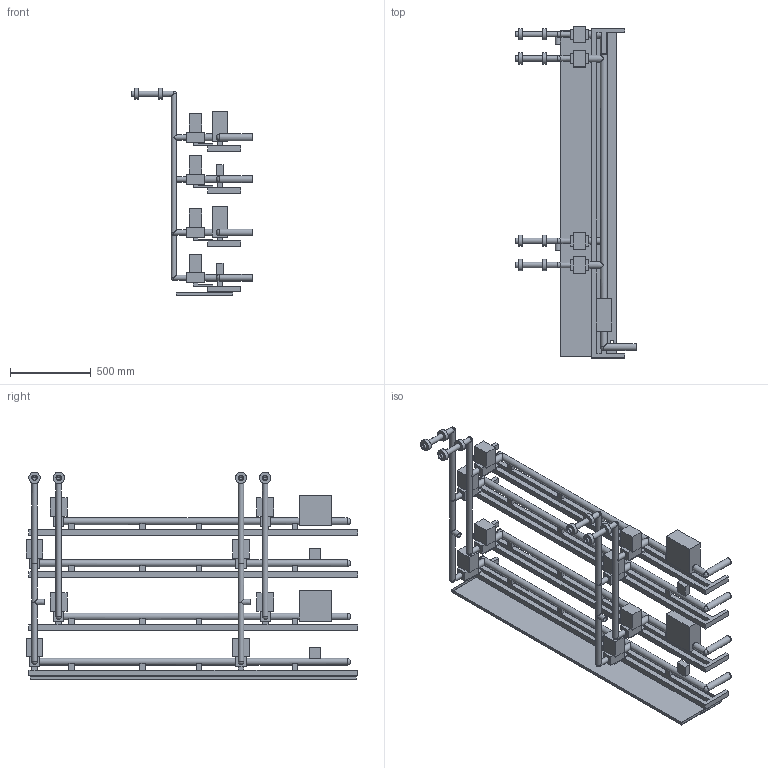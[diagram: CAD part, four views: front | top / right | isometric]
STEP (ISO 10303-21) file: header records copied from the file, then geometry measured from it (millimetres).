
FILE_DESCRIPTION(('Open CASCADE Model'),'2;1');
FILE_NAME('Open CASCADE Shape Model','2026-11-05T12:47:00',('Author'),( 'Open CASCADE'),'Open CASCADE STEP processor 7.9','Open CASCADE 7.9' ,'Unknown');
FILE_SCHEMA(('AUTOMOTIVE_DESIGN { 1 0 10303 214 1 1 1 1 }'));
Length unit declared in the file: millimetre
Products named in the file (44): C06_WATER_FIT; A_W1_DETACHABLE_SPOOL; A_W1_UNION_632; A_W1_UNION_780; A_W1_BED_TREE; A_XV_CS; A_XV_HS; A_W2_DETACHABLE_SPOOL; A_W2_UNION_632; A_W2_UNION_780; A_W2_BED_TREE; A_XV_CR; A_XV_HR; B_W1_DETACHABLE_SPOOL; B_W1_UNION_632; B_W1_UNION_780; B_W1_BED_TREE; B_XV_CS; B_XV_HS; B_W2_DETACHABLE_SPOOL; B_W2_UNION_632; B_W2_UNION_780; B_W2_BED_TREE; B_XV_CR; B_XV_HR; CR_HEADER_UP; TA_CR; CR_OUTLET; CS_HEADER; TT_CS; HR_HEADER_UP; TA_HR; HR_OUTLET; HS_HEADER; TT_HS; RACK_CR; CAP_CR; RACK_CS; CAP_CS; RACK_HR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
Assembly tree (43 placements, depth 2):
  C06_WATER_FIT
    A_W1_DETACHABLE_SPOOL
    A_W1_UNION_632
    A_W1_UNION_780
    A_W1_BED_TREE
    A_XV_CS
    A_XV_HS
    A_W2_DETACHABLE_SPOOL
    A_W2_UNION_632
    A_W2_UNION_780
    A_W2_BED_TREE
    A_XV_CR
    A_XV_HR
    B_W1_DETACHABLE_SPOOL
    B_W1_UNION_632
    B_W1_UNION_780
    B_W1_BED_TREE
    B_XV_CS
    B_XV_HS
    B_W2_DETACHABLE_SPOOL
    B_W2_UNION_632
    B_W2_UNION_780
    B_W2_BED_TREE
    B_XV_CR
    B_XV_HR
    CR_HEADER_UP
    TA_CR
    CR_OUTLET
    CS_HEADER
    TT_CS
    HR_HEADER_UP
    TA_HR
    HR_OUTLET
    HS_HEADER
    TT_HS
    RACK_CR
    CAP_CR
    RACK_CS
    CAP_CS
    RACK_HR
    CAP_HR
    RACK_HS
    CAP_HS
    WATER_DRIP_TRAY
Bounding box: 745 x 2056.68 x 1287 mm (x, y, z)
Volume: 45644529.9 mm3; surface area: 8370989.7 mm2
Topology: 43 solids, 43 shells, 526 faces, 1349 edges, 864 vertices
Faces by surface type: plane 377, cylinder 125, sphere 24
Full cylindrical faces by diameter (mm): 20 x1, 27.3 x26, 33.7 x34, 35.9 x18, 42.4 x22, 70 x8
Entity records: 35794 total; most frequent: CARTESIAN_POINT 8221, DIRECTION 5099, LINE 3033, VECTOR 3033, ORIENTED_EDGE 2634, PCURVE 2634, DEFINITIONAL_REPRESENTATION 2634, EDGE_CURVE 1317
